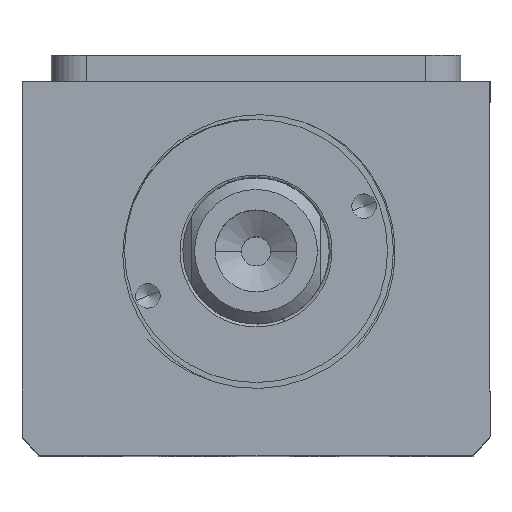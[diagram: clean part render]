
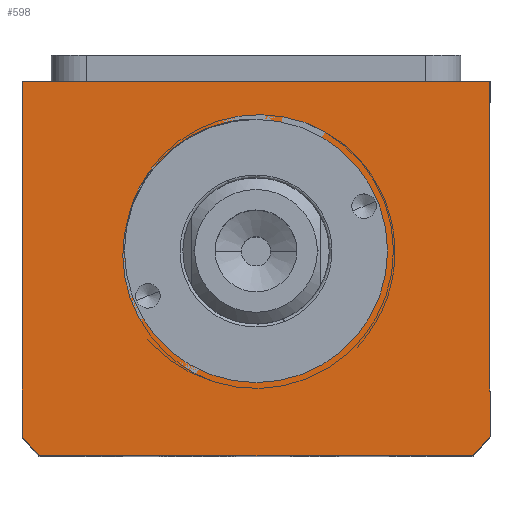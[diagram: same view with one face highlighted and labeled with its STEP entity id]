
A CAD part, top view. The second image highlights one B-rep face of the part: STEP entity #598.
In plain terms, the highlighted planar face has unit normal (0, 0, 1).
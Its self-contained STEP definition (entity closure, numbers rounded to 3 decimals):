
#158 = LINE ( 'NONE', #9562, #4425 ) ;
#192 = DIRECTION ( 'NONE',  ( 1., 0., 0. ) ) ;
#390 = CARTESIAN_POINT ( 'NONE',  ( 0., 3., 90. ) ) ;
#406 = VERTEX_POINT ( 'NONE', #5375 ) ;
#519 = DIRECTION ( 'NONE',  ( -1., 0., 0. ) ) ;
#598 = ADVANCED_FACE ( 'NONE', ( #7198, #7696 ), #9761, .T. ) ;
#760 = VECTOR ( 'NONE', #9289, 1000. ) ;
#796 = AXIS2_PLACEMENT_3D ( 'NONE', #8174, #6645, #7430 ) ;
#818 = DIRECTION ( 'NONE',  ( 1., 0., 0. ) ) ;
#822 = EDGE_LOOP ( 'NONE', ( #9659, #3577, #9542, #1320, #1555, #9547 ) ) ;
#877 = CARTESIAN_POINT ( 'NONE',  ( 40., 32., 90. ) ) ;
#925 = CIRCLE ( 'NONE', #1129, 22.5 ) ;
#1129 = AXIS2_PLACEMENT_3D ( 'NONE', #9732, #4985, #192 ) ;
#1179 = EDGE_CURVE ( 'NONE', #5570, #6079, #925, .T. ) ;
#1185 = VERTEX_POINT ( 'NONE', #877 ) ;
#1186 = DIRECTION ( 'NONE',  ( 1., 0., 0. ) ) ;
#1216 = CIRCLE ( 'NONE', #8297, 22.5 ) ;
#1235 = CARTESIAN_POINT ( 'NONE',  ( -40., 32., 90. ) ) ;
#1320 = ORIENTED_EDGE ( 'NONE', *, *, #3864, .T. ) ;
#1394 = CIRCLE ( 'NONE', #1482, 51. ) ;
#1482 = AXIS2_PLACEMENT_3D ( 'NONE', #390, #5979, #1186 ) ;
#1555 = ORIENTED_EDGE ( 'NONE', *, *, #5301, .T. ) ;
#1964 = VECTOR ( 'NONE', #3624, 1000. ) ;
#2289 = DIRECTION ( 'NONE',  ( 0., 0., 1. ) ) ;
#2313 = VERTEX_POINT ( 'NONE', #6956 ) ;
#2774 = VECTOR ( 'NONE', #519, 1000. ) ;
#2880 = LINE ( 'NONE', #6926, #760 ) ;
#3010 = VERTEX_POINT ( 'NONE', #9468 ) ;
#3126 = EDGE_CURVE ( 'NONE', #1185, #2313, #8891, .T. ) ;
#3201 = EDGE_CURVE ( 'NONE', #6727, #10333, #158, .T. ) ;
#3577 = ORIENTED_EDGE ( 'NONE', *, *, #8850, .T. ) ;
#3624 = DIRECTION ( 'NONE',  ( 0., -1., 0. ) ) ;
#3864 = EDGE_CURVE ( 'NONE', #10333, #3010, #1394, .T. ) ;
#3911 = CARTESIAN_POINT ( 'NONE',  ( 22.5, 3., 90. ) ) ;
#3961 = DIRECTION ( 'NONE',  ( 0., 0., 1. ) ) ;
#4425 = VECTOR ( 'NONE', #818, 1000. ) ;
#4891 = EDGE_LOOP ( 'NONE', ( #5068, #7579 ) ) ;
#4985 = DIRECTION ( 'NONE',  ( 0., 0., 1. ) ) ;
#5068 = ORIENTED_EDGE ( 'NONE', *, *, #1179, .F. ) ;
#5301 = EDGE_CURVE ( 'NONE', #3010, #1185, #2880, .T. ) ;
#5375 = CARTESIAN_POINT ( 'NONE',  ( -40., -28.639, 90. ) ) ;
#5570 = VERTEX_POINT ( 'NONE', #3911 ) ;
#5979 = DIRECTION ( 'NONE',  ( 0., 0., 1. ) ) ;
#5986 = LINE ( 'NONE', #1235, #1964 ) ;
#6079 = VERTEX_POINT ( 'NONE', #8871 ) ;
#6104 = AXIS2_PLACEMENT_3D ( 'NONE', #7103, #2289, #7899 ) ;
#6115 = CARTESIAN_POINT ( 'NONE',  ( -40., 32., 90. ) ) ;
#6645 = DIRECTION ( 'NONE',  ( 0., 0., 1. ) ) ;
#6727 = VERTEX_POINT ( 'NONE', #7910 ) ;
#6926 = CARTESIAN_POINT ( 'NONE',  ( 40., 32., 90. ) ) ;
#6956 = CARTESIAN_POINT ( 'NONE',  ( -40., 32., 90. ) ) ;
#7103 = CARTESIAN_POINT ( 'NONE',  ( 0., 3., 90. ) ) ;
#7198 = FACE_BOUND ( 'NONE', #4891, .T. ) ;
#7390 = EDGE_CURVE ( 'NONE', #6079, #5570, #1216, .T. ) ;
#7430 = DIRECTION ( 'NONE',  ( 1., 0., 0. ) ) ;
#7579 = ORIENTED_EDGE ( 'NONE', *, *, #7390, .F. ) ;
#7696 = FACE_OUTER_BOUND ( 'NONE', #822, .T. ) ;
#7744 = EDGE_CURVE ( 'NONE', #2313, #406, #5986, .T. ) ;
#7899 = DIRECTION ( 'NONE',  ( 1., 0., 0. ) ) ;
#7910 = CARTESIAN_POINT ( 'NONE',  ( -37.094, -32., 90. ) ) ;
#8174 = CARTESIAN_POINT ( 'NONE',  ( 0., 0., 90. ) ) ;
#8261 = CARTESIAN_POINT ( 'NONE',  ( 37.094, -32., 90. ) ) ;
#8297 = AXIS2_PLACEMENT_3D ( 'NONE', #8719, #3961, #9514 ) ;
#8719 = CARTESIAN_POINT ( 'NONE',  ( 0., 3., 90. ) ) ;
#8850 = EDGE_CURVE ( 'NONE', #406, #6727, #9949, .T. ) ;
#8871 = CARTESIAN_POINT ( 'NONE',  ( -22.5, 3., 90. ) ) ;
#8891 = LINE ( 'NONE', #6115, #2774 ) ;
#9289 = DIRECTION ( 'NONE',  ( 0., 1., 0. ) ) ;
#9468 = CARTESIAN_POINT ( 'NONE',  ( 40., -28.639, 90. ) ) ;
#9514 = DIRECTION ( 'NONE',  ( 1., 0., 0. ) ) ;
#9542 = ORIENTED_EDGE ( 'NONE', *, *, #3201, .T. ) ;
#9547 = ORIENTED_EDGE ( 'NONE', *, *, #3126, .T. ) ;
#9562 = CARTESIAN_POINT ( 'NONE',  ( -40., -32., 90. ) ) ;
#9659 = ORIENTED_EDGE ( 'NONE', *, *, #7744, .T. ) ;
#9732 = CARTESIAN_POINT ( 'NONE',  ( 0., 3., 90. ) ) ;
#9761 = PLANE ( 'NONE',  #796 ) ;
#9949 = CIRCLE ( 'NONE', #6104, 51. ) ;
#10333 = VERTEX_POINT ( 'NONE', #8261 ) ;
